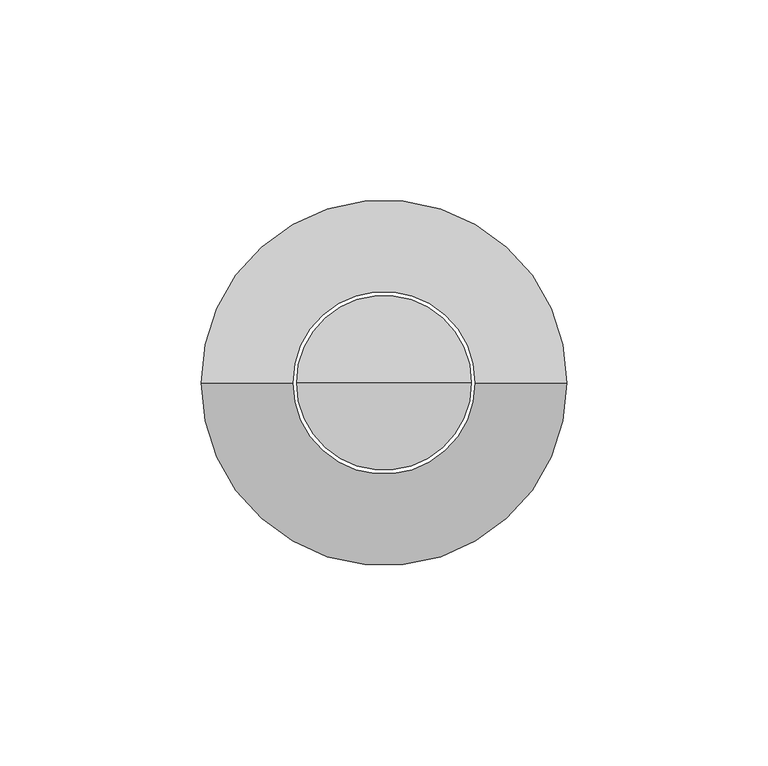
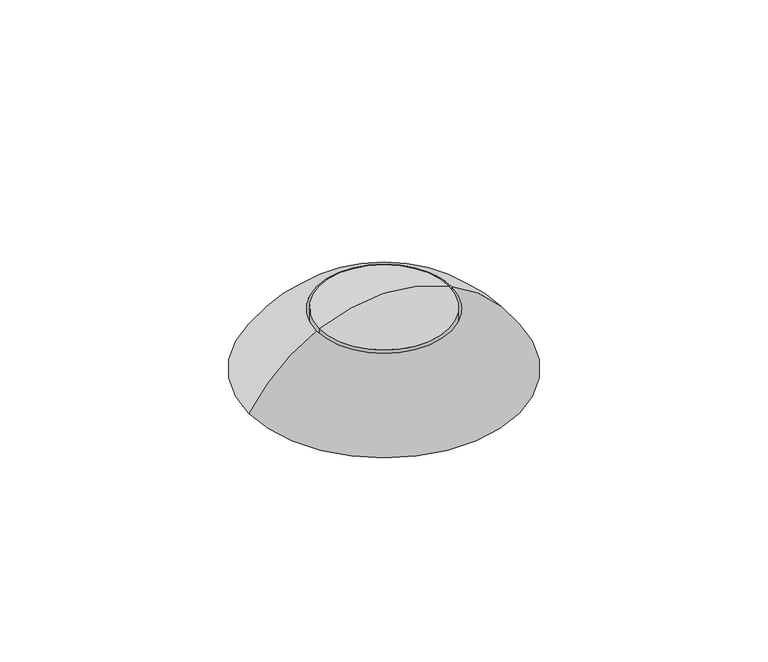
"""IFC4 building model written with IfcOpenShell, lengths in millimetres: flow terminal geometry, NLRS_74_PF_FB_bedieningspaneel pneumatisch_wisa : chroom - glans."""

from ifc_helpers import new_model, si_unit, point, frame, origin, origin_with_axes, place, context, project, spatial, polyline, circle_curve, ellipse_curve, trimmed, source, transform, mapped, element, save
from ifc_brep_helpers import plane_surface, cylinder_surface, revolved_surface, advanced_brep


def flow_terminal_6636fbf7(model_context):
    return source(origin(), model_context, "Body", "AdvancedBrep", [
        advanced_brep(
        [(-21.75, 0.0, 0.0), (21.75, 0.0, 0.0), (0.0, 0.0, 0.0), (0.0, 0.0, 27.0), (21.75, 0.0, 21.8674366), (-21.75, 0.0, 21.8674366)],
        [
            (0, 1, circle_curve(frame((0.0, 0.0, 0.0), z_axis=(0.0, 0.0, -1.0), x_axis=(1.0, 0.0, 0.0)), 21.75)),
            (1, 2),
            (2, 0),
            (1, 0, circle_curve(frame((0.0, 0.0, 0.0), z_axis=(0.0, 0.0, -1.0), x_axis=(1.0, 0.0, 0.0)), 21.75)),
            (3, 4, circle_curve(frame((-1.248697, 0.0, -26.9422486), z_axis=(0.0, 1.0, 0.0), x_axis=(1.0, 0.0, 0.0)), 53.9566996)),
            (4, 5, circle_curve(frame((0.0, 0.0, 21.8674366), z_axis=(0.0, 0.0, 1.0), x_axis=(1.0, 0.0, 0.0)), 21.75)),
            (5, 3, circle_curve(frame((1.248697, 0.0, -26.9422486), z_axis=(0.0, 1.0, 0.0), x_axis=(-1.0, 0.0, 0.0)), 53.9566996)),
            (5, 4, circle_curve(frame((0.0, 0.0, 21.8674366), z_axis=(0.0, 0.0, 1.0), x_axis=(1.0, 0.0, 0.0)), 21.75)),
            (4, 1),
            (0, 5),
        ],
        [
            plane_surface(frame((0.0, 0.0, 0.0), z_axis=(0.0, 0.0, -1.0), x_axis=(1.0, 0.0, 0.0))),
            revolved_surface(trimmed(ellipse_curve(frame((-1.248697, 0.0, -26.9422486), z_axis=(0.0, -1.0, 0.0), x_axis=(1.0, 0.0, 0.0)), 53.9566996, 53.9566996), [point((21.75, 0.0, 21.8674366))], [point((0.0, 0.0, 27.0))], True, "CARTESIAN"), (0.0, 0.0, -180.0), (0.0, 0.0, 1.0)),
            cylinder_surface(frame((0.0, 0.0, -180.0), z_axis=(0.0, 0.0, 1.0), x_axis=(1.0, 0.0, 0.0)), 21.75),
        ],
        [
            (0, [[1, 2, 3]]),
            (0, [[4, -3, -2]]),
            (1, [[5, 6, 7]]),
            (1, [[-7, 8, -5]]),
            (2, [[-6, 9, -1, 10]]),
            (2, [[-8, -10, -4, -9]]),
        ],
    ),
        advanced_brep(
        [(-45.5, 0.0, 0.0), (45.5, 0.0, 0.0), (22.75, 0.0, 0.0), (-22.75, 0.0, 0.0), (-22.75, 0.0, 21.3836034), (22.75, 0.0, 21.3836034)],
        [
            (0, 1, circle_curve(frame((0.0, 0.0, 0.0), z_axis=(0.0, 0.0, -1.0), x_axis=(1.0, 0.0, 0.0)), 45.5)),
            (1, 2),
            (2, 3, circle_curve(origin_with_axes(), 22.75)),
            (3, 0),
            (1, 0, circle_curve(frame((0.0, 0.0, 0.0), z_axis=(0.0, 0.0, -1.0), x_axis=(1.0, 0.0, 0.0)), 45.5)),
            (3, 2, circle_curve(origin_with_axes(), 22.75)),
            (4, 5, circle_curve(frame((0.0, 0.0, 21.3836034), z_axis=(0.0, 0.0, -1.0), x_axis=(1.0, 0.0, 0.0)), 22.75)),
            (5, 1, circle_curve(frame((-1.248697, 0.0, -26.9422486), z_axis=(0.0, 1.0, 0.0), x_axis=(1.0, 0.0, 0.0)), 53.9566996)),
            (0, 4, circle_curve(frame((1.248697, 0.0, -26.9422486), z_axis=(0.0, 1.0, 0.0), x_axis=(-1.0, 0.0, 0.0)), 53.9566996)),
            (5, 4, circle_curve(frame((0.0, 0.0, 21.3836034), z_axis=(0.0, 0.0, -1.0), x_axis=(1.0, 0.0, 0.0)), 22.75)),
            (2, 5),
            (4, 3),
        ],
        [
            plane_surface(frame((0.0, 0.0, 0.0), z_axis=(0.0, 0.0, -1.0), x_axis=(1.0, 0.0, 0.0))),
            revolved_surface(trimmed(ellipse_curve(frame((-1.248697, 0.0, -26.9422486), z_axis=(0.0, -1.0, 0.0), x_axis=(1.0, 0.0, 0.0)), 53.9566996, 53.9566996), [point((45.5, 0.0, 0.0))], [point((22.75, 0.0, 21.3836034))], True, "CARTESIAN"), (0.0, 0.0, -180.0), (0.0, 0.0, 1.0)),
            revolved_surface(polyline([(22.75, 0.0, 21.3836034), (22.75, 0.0, 0.0)]), (0.0, 0.0, -180.0), (0.0, 0.0, 1.0)),
        ],
        [
            (0, [[1, 2, 3, 4]]),
            (0, [[5, -4, 6, -2]]),
            (1, [[7, 8, -1, 9]]),
            (1, [[10, -9, -5, -8]]),
            (2, [[-3, 11, -7, 12]]),
            (2, [[-6, -12, -10, -11]]),
        ],
    ),
    ])


if __name__ == "__main__":
    model = new_model("IFC4")
    model_context = context("Model", 3, world=origin())
    ifc_project = project(units=[si_unit("LENGTHUNIT", "METRE", prefix="MILLI")], contexts=[model_context])
    site = spatial("IfcSite", under=ifc_project)
    building = spatial("IfcBuilding", under=site)
    placement = place(None, origin())
    flow_terminal_shape = flow_terminal_6636fbf7(model_context)
    element("IfcFlowTerminal", 1, ObjectType="NLRS_74_PF_FB_bedieningspaneel pneumatisch_wisa : chroom - glans", at=placement, inside=building, context=model_context, shape_type="MappedRepresentation", body=[
        mapped(flow_terminal_shape, transform((0.0, 0.0, 0.0), x_axis=(1.0, 0.0, 0.0), y_axis=(0.0, 1.0, 0.0), z_axis=(0.0, 0.0, 1.0))),
    ])
    save(model, "model.ifc")
